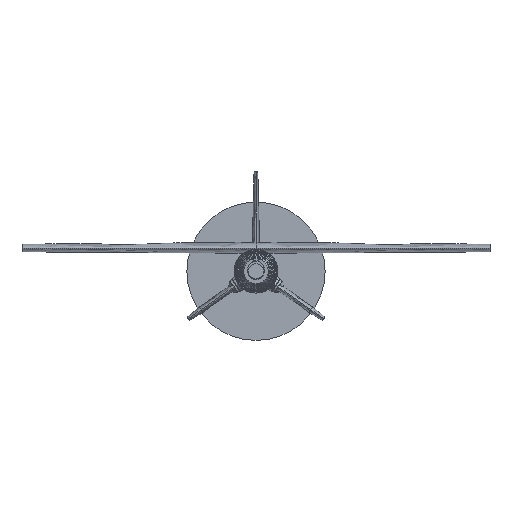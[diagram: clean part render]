
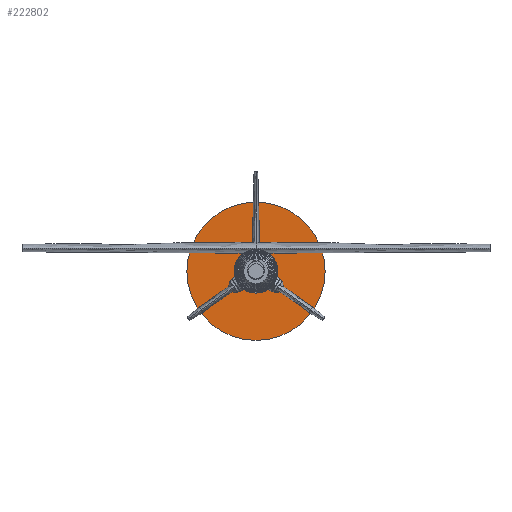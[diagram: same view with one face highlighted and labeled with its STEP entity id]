
A CAD part, left-side view. The second image highlights one B-rep face of the part: STEP entity #222802.
In plain terms, the highlighted planar face has unit normal (-1, 0, 0).
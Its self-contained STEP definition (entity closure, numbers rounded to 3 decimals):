
#222724 = CYLINDRICAL_SURFACE('',#222725,63.5);
#222725 = AXIS2_PLACEMENT_3D('',#222726,#222727,#222728);
#222726 = CARTESIAN_POINT('',(467.55,0.,0.));
#222727 = DIRECTION('',(1.,0.,0.));
#222728 = DIRECTION('',(-0.,0.,1.));
#222749 = VERTEX_POINT('',#222750);
#222750 = CARTESIAN_POINT('',(467.55,0.,63.5));
#222771 = EDGE_CURVE('',#222749,#222749,#222772,.T.);
#222772 = SURFACE_CURVE('',#222773,(#222778,#222785),.PCURVE_S1.);
#222773 = CIRCLE('',#222774,63.5);
#222774 = AXIS2_PLACEMENT_3D('',#222775,#222776,#222777);
#222775 = CARTESIAN_POINT('',(467.55,0.,0.));
#222776 = DIRECTION('',(1.,0.,0.));
#222777 = DIRECTION('',(-0.,0.,1.));
#222778 = PCURVE('',#222724,#222779);
#222779 = DEFINITIONAL_REPRESENTATION('',(#222780),#222784);
#222780 = LINE('',#222781,#222782);
#222781 = CARTESIAN_POINT('',(0.,0.));
#222782 = VECTOR('',#222783,1.);
#222783 = DIRECTION('',(1.,0.));
#222784 = ( GEOMETRIC_REPRESENTATION_CONTEXT(2) 
PARAMETRIC_REPRESENTATION_CONTEXT() REPRESENTATION_CONTEXT('2D SPACE',''
  ) );
#222785 = PCURVE('',#222786,#222791);
#222786 = PLANE('',#222787);
#222787 = AXIS2_PLACEMENT_3D('',#222788,#222789,#222790);
#222788 = CARTESIAN_POINT('',(467.55,0.,0.));
#222789 = DIRECTION('',(1.,0.,0.));
#222790 = DIRECTION('',(-0.,0.,1.));
#222791 = DEFINITIONAL_REPRESENTATION('',(#222792),#222796);
#222792 = CIRCLE('',#222793,63.5);
#222793 = AXIS2_PLACEMENT_2D('',#222794,#222795);
#222794 = CARTESIAN_POINT('',(0.,0.));
#222795 = DIRECTION('',(1.,0.));
#222796 = ( GEOMETRIC_REPRESENTATION_CONTEXT(2) 
PARAMETRIC_REPRESENTATION_CONTEXT() REPRESENTATION_CONTEXT('2D SPACE',''
  ) );
#222802 = ADVANCED_FACE('',(#222803),#222786,.F.);
#222803 = FACE_BOUND('',#222804,.T.);
#222804 = EDGE_LOOP('',(#222805));
#222805 = ORIENTED_EDGE('',*,*,#222771,.F.);
